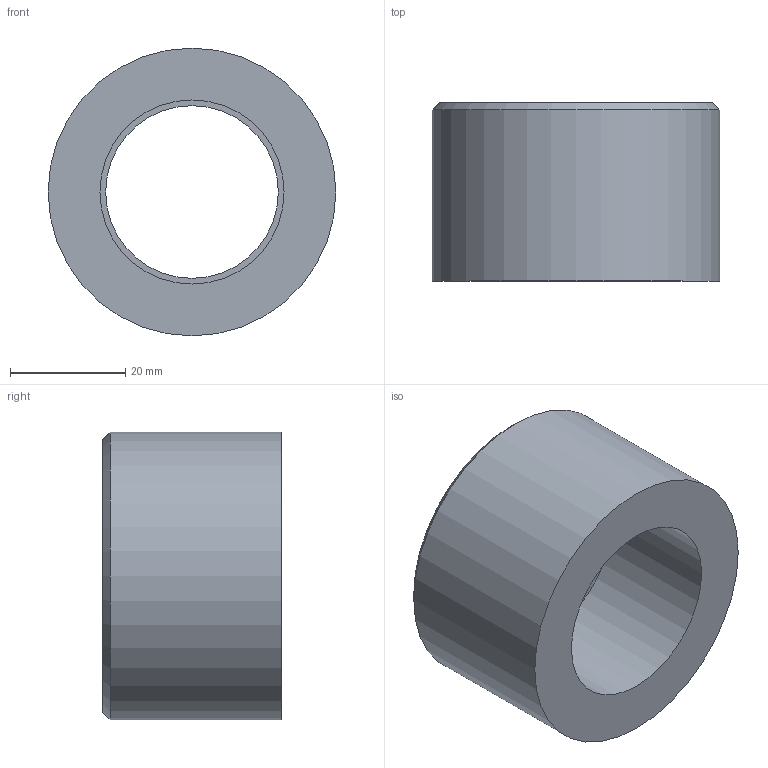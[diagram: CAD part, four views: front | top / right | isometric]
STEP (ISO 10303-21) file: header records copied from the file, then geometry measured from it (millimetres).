
FILE_DESCRIPTION(/* description */ ('PVC riduzione corta incollaggio metrica'),/* implementation_level */ '2;1');
FILE_NAME(/* name */ 'C:\Users\POLYPIPE\Desktop\DATASET INVENTOR\LIBRERIA EFFAST\RACCORDI 3DxWEB\RDR\3D_RDRRCD\3D_RDRRCD050D.stp',/* time_stamp */ '2018-01-19T15:30:37+01:00',/* author */ ('POLYPIPE'),/* organization */ ('Polypipe Italia s.r.l.'),/* preprocessor_version */ 'ST-DEVELOPER v16.1',/* originating_system */ 'Autodesk Inventor 2016',/* authorisation */ '');
FILE_SCHEMA (('CONFIG_CONTROL_DESIGN'));
Length unit declared in the file: millimetre
Products named in the file (1): 3D_RDRRCD
Bounding box: 50 x 31 x 50 mm (x, y, z)
Volume: 35238.2 mm3; surface area: 10069.9 mm2
Topology: 1 solids, 1 shells, 8 faces, 13 edges, 8 vertices
Faces by surface type: plane 3, cylinder 3, cone 2
Full cylindrical faces by diameter (mm): 30 x1, 32 x1, 50 x1
Entity records: 192 total; most frequent: DIRECTION 34, CARTESIAN_POINT 25, AXIS2_PLACEMENT_3D 17, EDGE_LOOP 16, ORIENTED_EDGE 16, FACE_BOUND 8, FACE_OUTER_BOUND 8, CIRCLE 8
